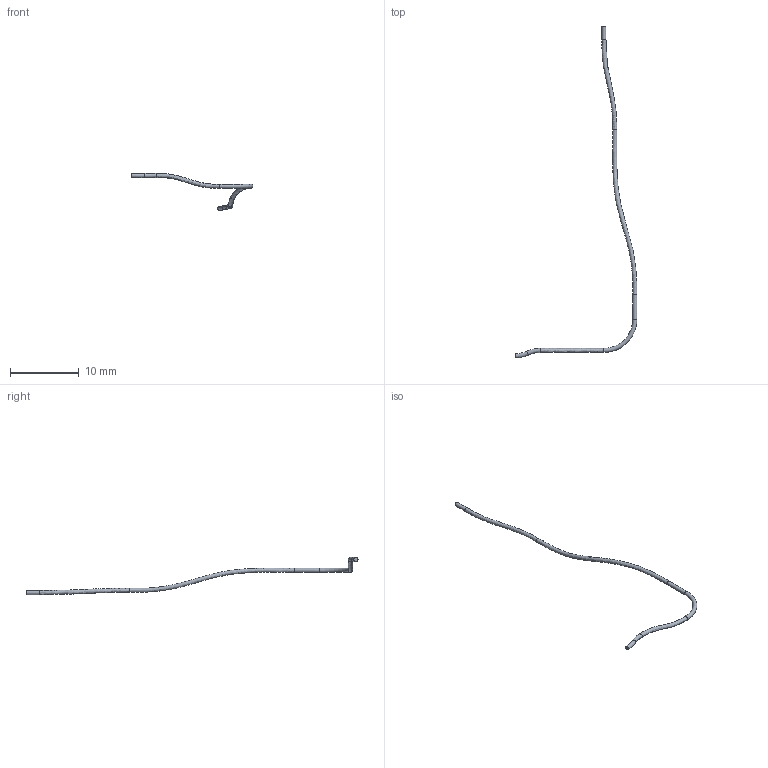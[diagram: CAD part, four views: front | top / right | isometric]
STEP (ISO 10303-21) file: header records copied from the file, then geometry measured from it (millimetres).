
FILE_DESCRIPTION(('FreeCAD Model'),'2;1');
FILE_NAME('Open CASCADE Shape Model','2026-11-12T12:41:39',('FreeCAD'),( 'FreeCAD'),'Open CASCADE STEP processor 7.8','FreeCAD','Unknown');
FILE_SCHEMA(('AUTOMOTIVE_DESIGN { 1 0 10303 214 1 1 1 1 }'));
Length unit declared in the file: millimetre
Products named in the file (1): Open CASCADE STEP translator 7.8 1
Bounding box: 17.72 x 48.34 x 5.41 mm (x, y, z)
Volume: 18 mm3; surface area: 120.8 mm2
Topology: 1 solids, 1 shells, 10 faces, 17 edges, 9 vertices
Faces by surface type: bspline 3, torus 3, cylinder 2, plane 2
Full cylindrical faces by diameter (mm): 0.6 x2
Entity records: 2772 total; most frequent: CARTESIAN_POINT 2592, DIRECTION 36, ORIENTED_EDGE 34, AXIS2_PLACEMENT_3D 17, EDGE_CURVE 17, ADVANCED_FACE 10, FACE_BOUND 10, EDGE_LOOP 10
